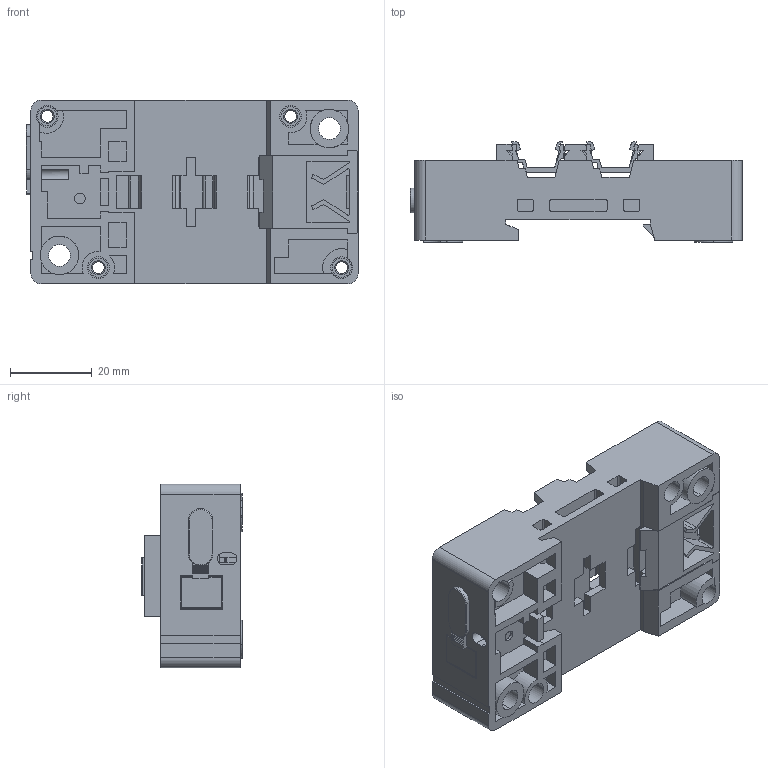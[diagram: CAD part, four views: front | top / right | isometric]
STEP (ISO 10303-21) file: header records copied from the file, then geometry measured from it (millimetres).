
FILE_DESCRIPTION( ( '' ), '1' );
FILE_NAME( '//partserver002.servicenet/client_exchange/iodir/jobs/output/wkb6672848_no3/STEP/ac5010_2_03.stp', '2007-03-28T12:05:40', ( '' ), ( '' ), ' ', ' ', ' ' );
FILE_SCHEMA( ( 'CONFIG_CONTROL_DESIGN' ) );
Length unit declared in the file: millimetre
Products named in the file (1): 1
Bounding box: 81.2 x 24.6 x 45 mm (x, y, z)
Volume: 34000.9 mm3; surface area: 27942.7 mm2
Topology: 1 solids, 1 shells, 1044 faces, 3025 edges, 1983 vertices
Faces by surface type: plane 808, cylinder 206, cone 28, torus 2
Entity records: 34181 total; most frequent: CARTESIAN_POINT 6065, ORIENTED_EDGE 6050, DIRECTION 5577, EDGE_CURVE 3025, LINE 2559, VECTOR 2559, VERTEX_POINT 1983, AXIS2_PLACEMENT_3D 1509
